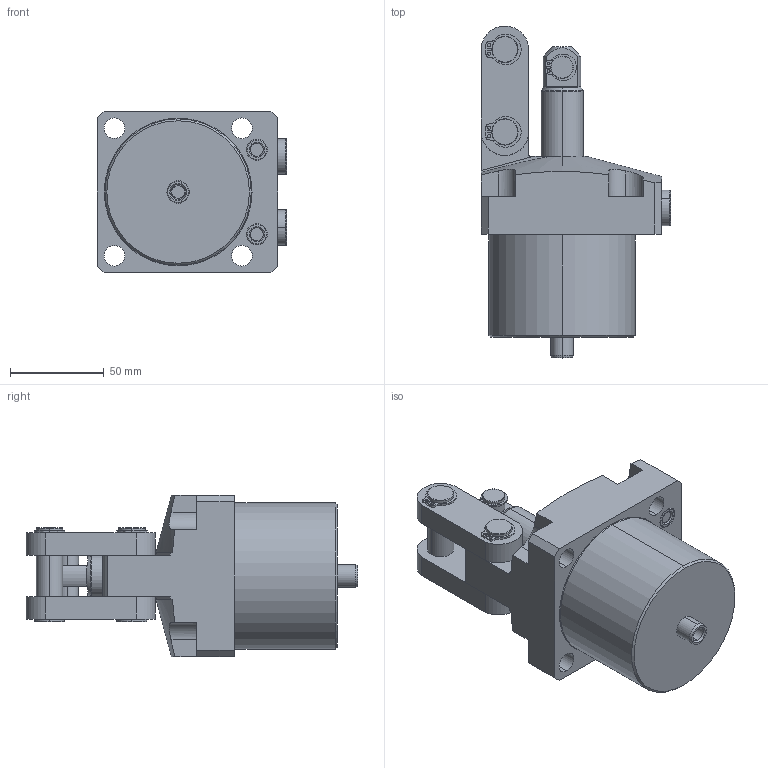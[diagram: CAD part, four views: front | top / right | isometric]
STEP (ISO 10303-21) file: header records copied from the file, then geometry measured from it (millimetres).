
FILE_DESCRIPTION(/* description */ (''),/* implementation_level */ '2;1');
FILE_NAME(/* name */ 'TPC16-FD.stp',/* time_stamp */ '2025-01-05T10:12:09+08:00',/* author */ (''),/* organization */ (''),/* preprocessor_version */ 'ST-DEVELOPER v16.7',/* originating_system */ 'SIEMENS PLM Software NX 12.0',/* authorisation */ '');
FILE_SCHEMA (('AUTOMOTIVE_DESIGN { 1 0 10303 214 3 1 1 1 }'));
Length unit declared in the file: millimetre
Products named in the file (5): TPC16-FD-04; TPC16-FD-03; TPC16-FD-02; TPC16-FD-01; TPC16-FD_stp
Assembly tree (5 placements, depth 2):
  TPC16-FD_stp
    TPC16-FD-01
    TPC16-FD-02
    TPC16-FD-03
    TPC16-FD-04  x2
Bounding box: 100.8 x 177 x 86 mm (x, y, z)
Volume: 606741.9 mm3; surface area: 79064.1 mm2
Topology: 5 solids, 7 shells, 297 faces, 699 edges, 444 vertices
Faces by surface type: cylinder 124, plane 114, torus 34, cone 25
Entity records: 8285 total; most frequent: CARTESIAN_POINT 1544, DIRECTION 1493, ORIENTED_EDGE 1306, EDGE_CURVE 653, AXIS2_PLACEMENT_3D 597, VERTEX_POINT 416, EDGE_LOOP 323, CIRCLE 316
